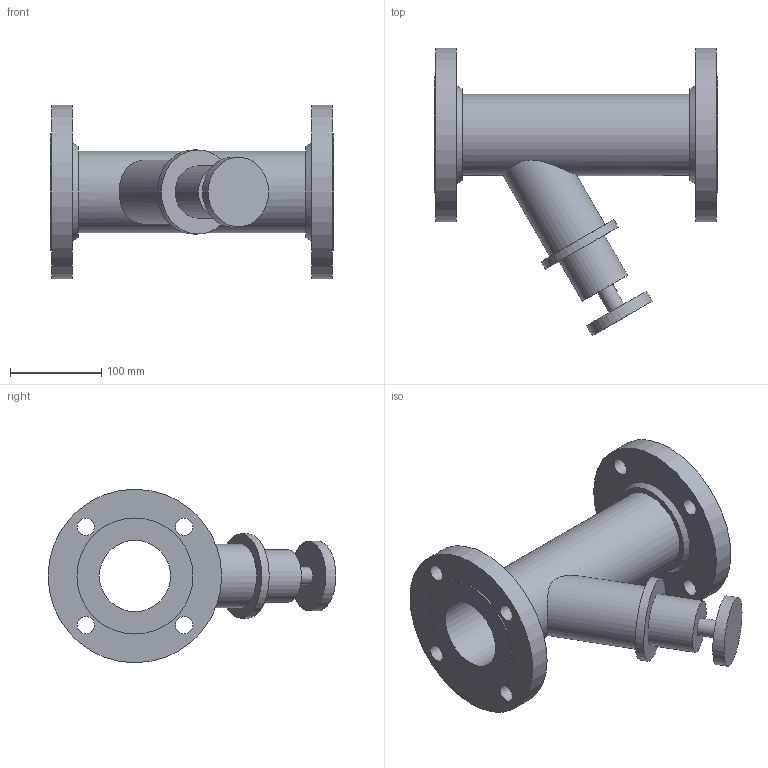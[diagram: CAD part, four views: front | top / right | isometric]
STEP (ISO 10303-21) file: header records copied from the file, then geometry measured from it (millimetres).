
FILE_DESCRIPTION(/* description */ ('VIC TA CIRCUIT BALANCING VALVE SERIES 788 (FLG)','CAx-IF Rec.Pracs.---Representation and Presentation of Product Manufacturing Information (PMI)---4.0---2014-10-13'),/* implementation_level */ '2;1');
FILE_NAME(/* name */ 'C:\Users\Vjadhav\AppData\Roaming\Autodesk\ApplicationPlugins\Back Up\Victaulic-IPS-TA Balancing Valve Series 788\Victaulic-IPS-TA Balancing Valve Series 788_3 (80).stp',/* time_stamp */ '2020-03-19T19:19:39+06:00',/* author */ ('cps_temp'),/* organization */ ('Victaulic'),/* preprocessor_version */ 'ST-DEVELOPER v17.2',/* originating_system */ 'Autodesk Inventor 2019',/* authorisation */ '');
FILE_SCHEMA (('AP242_MANAGED_MODEL_BASED_3D_ENGINEERING_MIM_LF { 1 0 10303 442 1 1 4 }'));
Length unit declared in the file: inch
Products named in the file (1): 788-03.0
Bounding box: 309.88 x 314.96 x 189.99 mm (x, y, z)
Volume: 2022664.6 mm3; surface area: 323007.2 mm2
Topology: 1 solids, 1 shells, 34 faces, 91 edges, 69 vertices
Faces by surface type: cylinder 19, plane 13, cone 2
Full cylindrical faces by diameter (mm): 19.05 x9, 57.15 x1, 69.85 x1, 76.2 x1, 77.927 x1, 88.9 x1, 92.05 x1, 127 x2, 189.992 x2
Entity records: 1404 total; most frequent: CARTESIAN_POINT 279, DIRECTION 250, ORIENTED_EDGE 182, AXIS2_PLACEMENT_3D 114, EDGE_CURVE 91, VERTEX_POINT 69, CIRCLE 66, EDGE_LOOP 62
